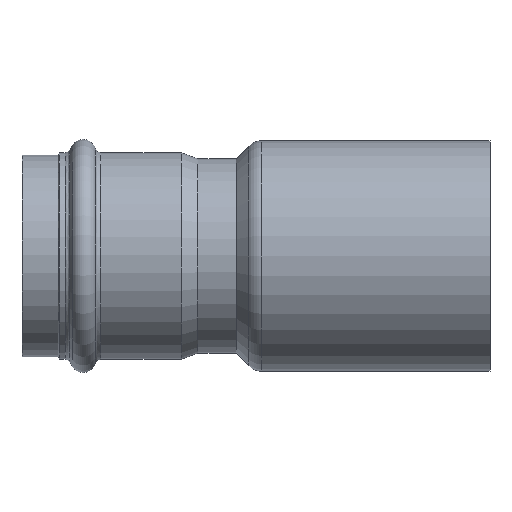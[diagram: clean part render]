
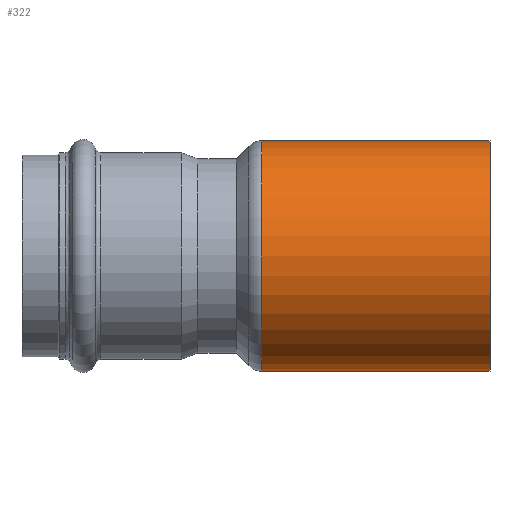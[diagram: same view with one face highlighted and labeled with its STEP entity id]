
A CAD part, front view. The second image highlights one B-rep face of the part: STEP entity #322.
In plain terms, the highlighted cylindrical face has radius 32 mm (diameter 64 mm), a full revolution.
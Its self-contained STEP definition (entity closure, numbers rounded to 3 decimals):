
#288=CARTESIAN_POINT('',(-63.429,32.,0.0));
#289=VERTEX_POINT('',#288);
#290=CARTESIAN_POINT('',(-63.429,0.0,0.0));
#291=DIRECTION('',(1.0,0.0,0.0));
#292=DIRECTION('',(0.0,1.0,0.0));
#293=AXIS2_PLACEMENT_3D('',#290,#291,#292);
#294=CIRCLE('',#293,32.);
#295=EDGE_CURVE('',#289,#289,#294,.T.);
#303=CARTESIAN_POINT('',(-31.714,0.0,0.0));
#304=DIRECTION('',(1.0,0.0,0.0));
#305=DIRECTION('',(0.0,1.0,0.0));
#306=AXIS2_PLACEMENT_3D('',#303,#304,#305);
#307=CYLINDRICAL_SURFACE('',#306,32.);
#308=CARTESIAN_POINT('',(0.,32.0,0.0));
#309=VERTEX_POINT('',#308);
#310=CARTESIAN_POINT('',(0.,0.0,0.0));
#311=DIRECTION('',(1.0,0.0,0.0));
#312=DIRECTION('',(0.0,1.0,0.0));
#313=AXIS2_PLACEMENT_3D('',#310,#311,#312);
#314=CIRCLE('',#313,32.0);
#315=EDGE_CURVE('',#309,#309,#314,.T.);
#316=ORIENTED_EDGE('',*,*,#315,.F.);
#317=EDGE_LOOP('',(#316));
#318=FACE_OUTER_BOUND('',#317,.T.);
#319=ORIENTED_EDGE('',*,*,#295,.T.);
#320=EDGE_LOOP('',(#319));
#321=FACE_BOUND('',#320,.T.);
#322=ADVANCED_FACE('',(#318,#321),#307,.T.);
